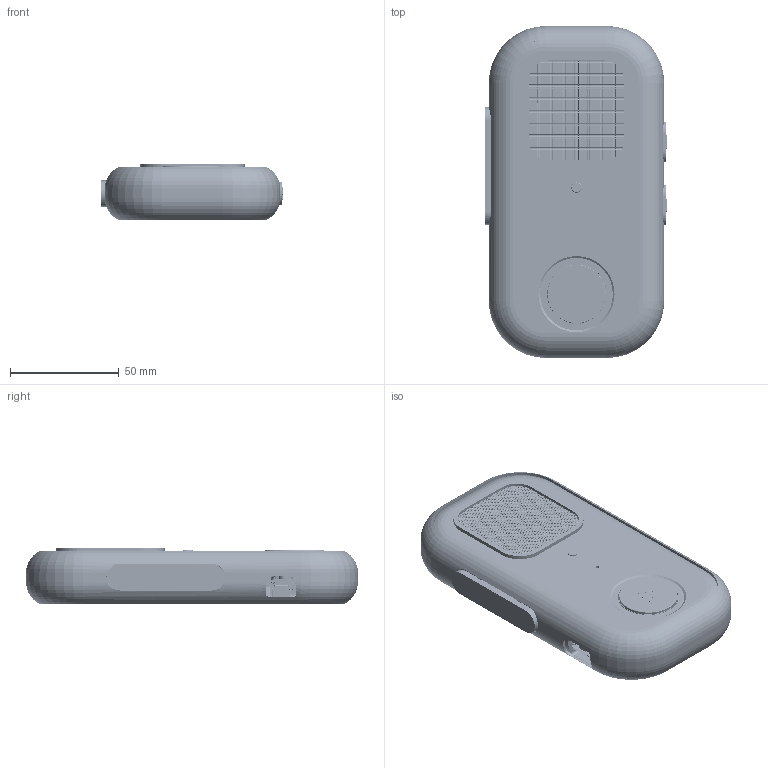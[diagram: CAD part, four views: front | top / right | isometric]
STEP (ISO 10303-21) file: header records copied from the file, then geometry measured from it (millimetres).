
FILE_DESCRIPTION(/* description */ ('Open CASCADE Model'),/* implementation_level */ '2;1');
FILE_NAME(/* name */ 'Walkie_One_28_1_R3_6_FULL_REFERENCE_ASSEMBLY.step',/* time_stamp */ '2026-09-15T15:41:00-07:00',/* author */ (''),/* organization */ (''),/* preprocessor_version */ 'ST-DEVELOPER v20.1',/* originating_system */ 'Autodesk Translation Framework v15.8.0.0',/* authorisation */ '');
FILE_SCHEMA (('AUTOMOTIVE_DESIGN { 1 0 10303 214 3 1 1 }'));
Products named in the file (251): Walkie_One_Concept_27_R2_REFERENCE_ASSEMBLY; C27_R2_01_Front_Shell_Chalk_Centered_Mic; C27_R2_02_Back_Shell_Chalk; C27_R2_03_Front_Action_Rigid_Carrier; C27_R2_04_Status_Lens; C27_R2_05_Front_Switch_Clamp; C27_R2_06_PTT_Rigid_Carrier; C27_R2_07_Volume_Up_Rigid_Carrier; C27_R2_08_Volume_Down_Rigid_Carrier; C27_R2_09_Warm_Grey_Elastomer_Rim; C27_R2_16_Orange_Ribbed_PTT_Grip; C27_R2_17_PTT_Bond_Film; C27_R2_PCB_Front_Seat_1; C27_R2_PCB_Rear_Preload_1; C27_R2_PCB_Front_Seat_2; C27_R2_PCB_Rear_Preload_2; C27_R2_PCB_Front_Seat_3; C27_R2_PCB_Rear_Preload_3; C27_R2_PCB_Front_Seat_4; C27_R2_PCB_Rear_Preload_4; C27_R2_Speaker_Front_Gasket; C27_R2_Speaker_Frame_Gasket; C27_R2_Speaker_Acoustic_Mesh; C27_R2_Speaker_Ear_Keeper_1; C27_R2_Speaker_Ear_Preload_1; C27_R2_Speaker_Ear_Keeper_2; C27_R2_Speaker_Ear_Preload_2; C27_R2_Microphone_Removable_Keeper; C27_R2_Microphone_Rear_Preload; C27_R2_Mic_Front_Seat_1; C27_R2_Mic_Front_Seat_2; C27_R2_Mic_Front_Seat_3; C27_R2_Mic_Front_Seat_4; C27_R2_Microphone_Acoustic_Seal; C27_R2_Microphone_Acoustic_Membrane; C27_R2_LED_Horizontal_Removable_Keeper; C27_R2_LED_Saddle_Pad_1; C27_R2_LED_Saddle_Pad_2; C27_R2_Internal_Right_Angle_Light_Coupler; C27_R2_Optical_Coupling_Film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
Assembly tree (312 placements, depth 6):
  Walkie_One_Concept_27_R2_REFERENCE_ASSEMBLY
    C27_R2_01_Front_Shell_Chalk_Centered_Mic
    C27_R2_02_Back_Shell_Chalk
    C27_R2_03_Front_Action_Rigid_Carrier
    C27_R2_04_Status_Lens
    C27_R2_05_Front_Switch_Clamp
    C27_R2_06_PTT_Rigid_Carrier
    C27_R2_07_Volume_Up_Rigid_Carrier
    C27_R2_08_Volume_Down_Rigid_Carrier
    C27_R2_09_Warm_Grey_Elastomer_Rim
    C27_R2_16_Orange_Ribbed_PTT_Grip
    C27_R2_17_PTT_Bond_Film
    C27_R2_PCB_Front_Seat_1
    C27_R2_PCB_Rear_Preload_1
    C27_R2_PCB_Front_Seat_2
    C27_R2_PCB_Rear_Preload_2
    C27_R2_PCB_Front_Seat_3
    C27_R2_PCB_Rear_Preload_3
    C27_R2_PCB_Front_Seat_4
    C27_R2_PCB_Rear_Preload_4
    C27_R2_Speaker_Front_Gasket
    C27_R2_Speaker_Frame_Gasket
    C27_R2_Speaker_Acoustic_Mesh
    C27_R2_Speaker_Ear_Keeper_1
    C27_R2_Speaker_Ear_Preload_1
    C27_R2_Speaker_Ear_Keeper_2
    C27_R2_Speaker_Ear_Preload_2
    C27_R2_Microphone_Removable_Keeper
    C27_R2_Microphone_Rear_Preload
    C27_R2_Mic_Front_Seat_1
    C27_R2_Mic_Front_Seat_2
    C27_R2_Mic_Front_Seat_3
    C27_R2_Mic_Front_Seat_4
    C27_R2_Microphone_Acoustic_Seal
    C27_R2_Microphone_Acoustic_Membrane
    C27_R2_LED_Horizontal_Removable_Keeper
    C27_R2_LED_Saddle_Pad_1
    C27_R2_LED_Saddle_Pad_2
    C27_R2_Internal_Right_Angle_Light_Coupler
    C27_R2_Optical_Coupling_Film
    C27_R2_LTE_Lower_Service_Frame
    C27_R2_LTE_Upper_Service_Frame
    C27_R2_Rim_Grip_Pad_Left_Lower
    C27_R2_Rim_Grip_Pad_Left_Upper
    C27_R2_Rim_Grip_Pad_Right_Lower
    C27_R2_Rim_Grip_Pad_Right_Upper
    C27_R2_HW_Closure_-33.4_-56
    C27_R2_HW_Closure_33.4_-56
    C27_R2_HW_Closure_-33.4_56
    C27_R2_HW_Closure_33.4_56
    C27_R2_HW_Front_Clamp_-17
    C27_R2_HW_Front_Clamp_17
    C27_R2_HW_LTE_-14_-32
    C27_R2_HW_LTE_-14_64
    C27_R2_HW_LTE_14_-32
    C27_R2_HW_LTE_14_64
    C27_R2_REF_Speaker
      C27_R2_REF_Speaker_001
      C27_R2_REF_Speaker_002
      C27_R2_REF_Speaker_003
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Bounding box: 83.35 x 152.7 x 25.74 mm (x, y, z)
Volume: 136699.7 mm3; surface area: 182301.6 mm2
Topology: 633 solids, 1998 shells, 22104 faces, 57852 edges, 38386 vertices
Faces by surface type: plane 16195, cylinder 3707, bspline 1766, torus 338, cone 71, sphere 27
Full cylindrical faces by diameter (mm): 0.157 x4, 0.18 x92, 0.3 x63, 0.325 x1, 0.375 x1, 0.4 x7, 0.45 x2, 0.48 x4, 0.5 x5, 0.6 x4, 0.75 x4, 0.813 x5, 0.9 x8, 0.95 x2, 1 x22, 1.025 x1, 1.05 x151, 1.3 x8, 1.37 x8, 1.5 x33, 1.567 x6, 1.65 x3, 1.7 x22, 1.8 x15, 1.85 x1, 1.9 x2, 2 x26, 2.013 x4, 2.1 x6, 2.17 x1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
Entity records: 660131 total; most frequent: CARTESIAN_POINT 178663, DIRECTION 93530, ORIENTED_EDGE 91772, EDGE_CURVE 50290, LINE 37778, VECTOR 37778, VERTEX_POINT 33426, AXIS2_PLACEMENT_3D 27876
